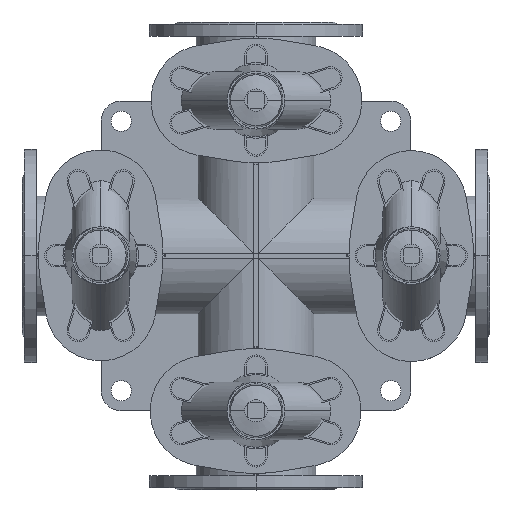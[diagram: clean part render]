
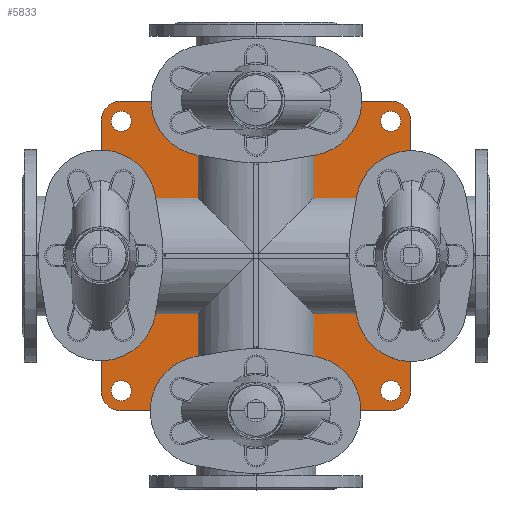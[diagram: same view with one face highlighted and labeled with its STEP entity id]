
A CAD part, top view. The second image highlights one B-rep face of the part: STEP entity #5833.
In plain terms, the highlighted planar face has unit normal (0, 0, 1).
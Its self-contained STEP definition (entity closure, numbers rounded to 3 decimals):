
#5833=ADVANCED_FACE('',(#11484,#11485,#11486,#11487,#11488),#11489,.F.);
#11484=FACE_BOUND('',#18600,.T.);
#11485=FACE_BOUND('',#18601,.T.);
#11486=FACE_BOUND('',#18602,.T.);
#11487=FACE_BOUND('',#18603,.T.);
#11488=FACE_OUTER_BOUND('',#18604,.T.);
#11489=PLANE('',#18605);
#18600=EDGE_LOOP('',(#29476,#29477));
#18601=EDGE_LOOP('',(#29478,#29479));
#18602=EDGE_LOOP('',(#29480,#29481));
#18603=EDGE_LOOP('',(#29482,#29483));
#18604=EDGE_LOOP('',(#29484,#29485,#29486,#29487,#29488,#29489,#29490,#29491));
#18605=AXIS2_PLACEMENT_3D('',#29492,#29493,#29494);
#29476=ORIENTED_EDGE('',*,*,#42019,.T.);
#29477=ORIENTED_EDGE('',*,*,#42020,.T.);
#29478=ORIENTED_EDGE('',*,*,#42021,.T.);
#29479=ORIENTED_EDGE('',*,*,#42022,.T.);
#29480=ORIENTED_EDGE('',*,*,#38485,.T.);
#29481=ORIENTED_EDGE('',*,*,#39157,.T.);
#29482=ORIENTED_EDGE('',*,*,#42023,.T.);
#29483=ORIENTED_EDGE('',*,*,#39565,.T.);
#29484=ORIENTED_EDGE('',*,*,#42024,.F.);
#29485=ORIENTED_EDGE('',*,*,#41646,.F.);
#29486=ORIENTED_EDGE('',*,*,#42025,.F.);
#29487=ORIENTED_EDGE('',*,*,#42026,.F.);
#29488=ORIENTED_EDGE('',*,*,#42027,.F.);
#29489=ORIENTED_EDGE('',*,*,#42028,.F.);
#29490=ORIENTED_EDGE('',*,*,#38846,.F.);
#29491=ORIENTED_EDGE('',*,*,#42029,.F.);
#29492=CARTESIAN_POINT('',(312.5,0.0,20.0));
#29493=DIRECTION('',(0.0,0.0,-1.0));
#29494=DIRECTION('',(-1.0,0.0,0.0));
#38485=EDGE_CURVE('',#45228,#45233,#45235,.T.);
#38846=EDGE_CURVE('',#45865,#45866,#45867,.T.);
#39157=EDGE_CURVE('',#45233,#45228,#46401,.T.);
#39565=EDGE_CURVE('',#47075,#47072,#47076,.T.);
#41646=EDGE_CURVE('',#50265,#50266,#50267,.T.);
#42019=EDGE_CURVE('',#50783,#50784,#50785,.T.);
#42020=EDGE_CURVE('',#50784,#50783,#50786,.T.);
#42021=EDGE_CURVE('',#50787,#50788,#50789,.T.);
#42022=EDGE_CURVE('',#50788,#50787,#50790,.T.);
#42023=EDGE_CURVE('',#47072,#47075,#50791,.T.);
#42024=EDGE_CURVE('',#50266,#50792,#50793,.T.);
#42025=EDGE_CURVE('',#50794,#50265,#50795,.T.);
#42026=EDGE_CURVE('',#50796,#50794,#50797,.T.);
#42027=EDGE_CURVE('',#50798,#50796,#50799,.T.);
#42028=EDGE_CURVE('',#45866,#50798,#50800,.T.);
#42029=EDGE_CURVE('',#50792,#45865,#50801,.T.);
#45228=VERTEX_POINT('',#54666);
#45233=VERTEX_POINT('',#54672);
#45235=CIRCLE('',#54675,13.5);
#45865=VERTEX_POINT('',#55478);
#45866=VERTEX_POINT('',#55479);
#45867=LINE('',#55480,#55481);
#46401=CIRCLE('',#56145,13.5);
#47072=VERTEX_POINT('',#57028);
#47075=VERTEX_POINT('',#57032);
#47076=CIRCLE('',#57033,13.5);
#50265=VERTEX_POINT('',#61186);
#50266=VERTEX_POINT('',#61187);
#50267=CIRCLE('',#61188,27.0);
#50783=VERTEX_POINT('',#61860);
#50784=VERTEX_POINT('',#61861);
#50785=CIRCLE('',#61862,13.5);
#50786=CIRCLE('',#61863,13.5);
#50787=VERTEX_POINT('',#61864);
#50788=VERTEX_POINT('',#61865);
#50789=CIRCLE('',#61866,13.5);
#50790=CIRCLE('',#61867,13.5);
#50791=CIRCLE('',#61868,13.5);
#50792=VERTEX_POINT('',#61869);
#50793=LINE('',#61870,#61871);
#50794=VERTEX_POINT('',#61872);
#50795=LINE('',#61873,#61874);
#50796=VERTEX_POINT('',#61875);
#50797=CIRCLE('',#61876,27.0);
#50798=VERTEX_POINT('',#61877);
#50799=LINE('',#61878,#61879);
#50800=CIRCLE('',#61880,27.0);
#50801=CIRCLE('',#61881,27.0);
#54666=CARTESIAN_POINT('',(506.0,-180.0,20.0));
#54672=CARTESIAN_POINT('',(479.0,-180.0,20.0));
#54675=AXIS2_PLACEMENT_3D('',#66008,#66009,#66010);
#55478=CARTESIAN_POINT('',(105.5,-180.0,20.0));
#55479=CARTESIAN_POINT('',(105.5,180.0,20.0));
#55480=CARTESIAN_POINT('',(105.5,-180.0,20.0));
#55481=VECTOR('',#66517,1.0);
#56145=AXIS2_PLACEMENT_3D('',#67005,#67006,#67007);
#57028=CARTESIAN_POINT('',(506.0,180.0,20.0));
#57032=CARTESIAN_POINT('',(479.0,180.0,20.0));
#57033=AXIS2_PLACEMENT_3D('',#67518,#67519,#67520);
#61186=CARTESIAN_POINT('',(519.5,-180.0,20.0));
#61187=CARTESIAN_POINT('',(492.5,-207.0,20.0));
#61188=AXIS2_PLACEMENT_3D('',#70249,#70250,#70251);
#61860=CARTESIAN_POINT('',(146.0,180.0,20.0));
#61861=CARTESIAN_POINT('',(119.0,180.0,20.0));
#61862=AXIS2_PLACEMENT_3D('',#70720,#70721,#70722);
#61863=AXIS2_PLACEMENT_3D('',#70723,#70724,#70725);
#61864=CARTESIAN_POINT('',(146.0,-180.0,20.0));
#61865=CARTESIAN_POINT('',(119.0,-180.0,20.0));
#61866=AXIS2_PLACEMENT_3D('',#70726,#70727,#70728);
#61867=AXIS2_PLACEMENT_3D('',#70729,#70730,#70731);
#61868=AXIS2_PLACEMENT_3D('',#70732,#70733,#70734);
#61869=CARTESIAN_POINT('',(132.5,-207.0,20.0));
#61870=CARTESIAN_POINT('',(492.5,-207.0,20.0));
#61871=VECTOR('',#70735,1.0);
#61872=CARTESIAN_POINT('',(519.5,180.0,20.0));
#61873=CARTESIAN_POINT('',(519.5,180.0,20.0));
#61874=VECTOR('',#70736,1.0);
#61875=CARTESIAN_POINT('',(492.5,207.0,20.0));
#61876=AXIS2_PLACEMENT_3D('',#70737,#70738,#70739);
#61877=CARTESIAN_POINT('',(132.5,207.0,20.0));
#61878=CARTESIAN_POINT('',(132.5,207.0,20.0));
#61879=VECTOR('',#70740,1.0);
#61880=AXIS2_PLACEMENT_3D('',#70741,#70742,#70743);
#61881=AXIS2_PLACEMENT_3D('',#70744,#70745,#70746);
#66008=CARTESIAN_POINT('',(492.5,-180.0,20.0));
#66009=DIRECTION('',(0.0,0.0,-1.0));
#66010=DIRECTION('',(1.0,0.0,0.0));
#66517=DIRECTION('',(0.0,1.0,0.0));
#67005=CARTESIAN_POINT('',(492.5,-180.0,20.0));
#67006=DIRECTION('',(0.0,0.0,-1.0));
#67007=DIRECTION('',(1.0,0.0,0.0));
#67518=CARTESIAN_POINT('',(492.5,180.0,20.0));
#67519=DIRECTION('',(0.0,0.0,-1.0));
#67520=DIRECTION('',(1.0,0.0,0.0));
#70249=CARTESIAN_POINT('',(492.5,-180.0,20.0));
#70250=DIRECTION('',(0.0,0.0,-1.0));
#70251=DIRECTION('',(-1.0,0.0,0.0));
#70720=CARTESIAN_POINT('',(132.5,180.0,20.0));
#70721=DIRECTION('',(0.0,0.0,-1.0));
#70722=DIRECTION('',(1.0,0.0,0.0));
#70723=CARTESIAN_POINT('',(132.5,180.0,20.0));
#70724=DIRECTION('',(0.0,0.0,-1.0));
#70725=DIRECTION('',(1.0,0.0,0.0));
#70726=CARTESIAN_POINT('',(132.5,-180.0,20.0));
#70727=DIRECTION('',(0.0,0.0,-1.0));
#70728=DIRECTION('',(1.0,0.0,0.0));
#70729=CARTESIAN_POINT('',(132.5,-180.0,20.0));
#70730=DIRECTION('',(0.0,0.0,-1.0));
#70731=DIRECTION('',(1.0,0.0,0.0));
#70732=CARTESIAN_POINT('',(492.5,180.0,20.0));
#70733=DIRECTION('',(0.0,0.0,-1.0));
#70734=DIRECTION('',(1.0,0.0,0.0));
#70735=DIRECTION('',(-1.0,0.0,0.0));
#70736=DIRECTION('',(0.0,-1.0,0.0));
#70737=CARTESIAN_POINT('',(492.5,180.0,20.0));
#70738=DIRECTION('',(0.0,0.0,-1.0));
#70739=DIRECTION('',(-1.0,0.0,0.0));
#70740=DIRECTION('',(1.0,0.0,0.0));
#70741=CARTESIAN_POINT('',(132.5,180.0,20.0));
#70742=DIRECTION('',(0.0,0.0,-1.0));
#70743=DIRECTION('',(-1.0,0.0,0.0));
#70744=CARTESIAN_POINT('',(132.5,-180.0,20.0));
#70745=DIRECTION('',(0.0,0.0,-1.0));
#70746=DIRECTION('',(-1.0,0.0,0.0));
